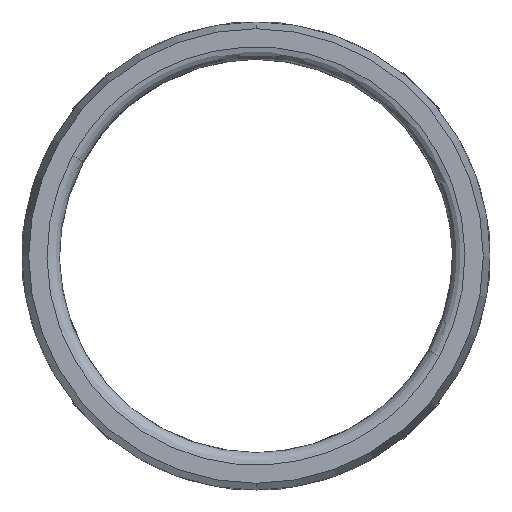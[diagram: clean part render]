
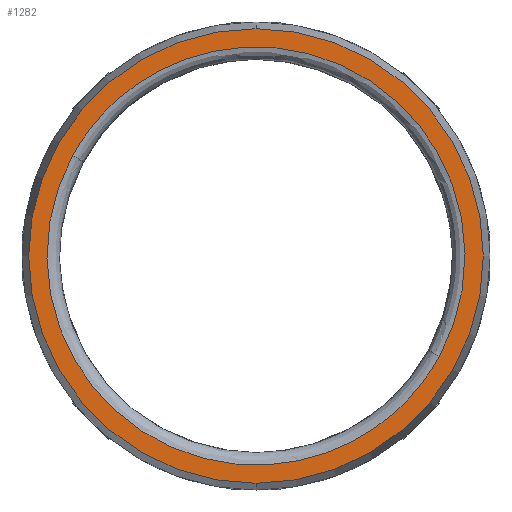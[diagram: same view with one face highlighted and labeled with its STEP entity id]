
A CAD part, front view. The second image highlights one B-rep face of the part: STEP entity #1282.
In plain terms, the highlighted planar face has unit normal (0, -1, 0).
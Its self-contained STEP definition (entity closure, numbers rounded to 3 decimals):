
#98 = DIRECTION ( 'NONE',  ( 0., 1., 0. ) ) ;
#99 = CARTESIAN_POINT ( 'NONE',  ( 0., 0., 0. ) ) ;
#100 = DIRECTION ( 'NONE',  ( 0., 0., 1. ) ) ;
#177 = AXIS2_PLACEMENT_3D ( 'NONE', #2707, #2737, #2620 ) ;
#1282 = ADVANCED_FACE ( 'NONE', ( #2598, #2609 ), #2632, .F. ) ;
#1340 = CARTESIAN_POINT ( 'NONE',  ( 2.722, 0., 74.859 ) ) ;
#1384 = CARTESIAN_POINT ( 'NONE',  ( 29.399, 0., -16.061 ) ) ;
#1409 = CARTESIAN_POINT ( 'NONE',  ( -29.399, 0., 16.061 ) ) ;
#1411 = CARTESIAN_POINT ( 'NONE',  ( 61.521, 0., 42.737 ) ) ;
#1927 = ORIENTED_EDGE ( 'NONE', *, *, #2869, .F. ) ;
#1953 = ORIENTED_EDGE ( 'NONE', *, *, #2854, .F. ) ;
#1956 = VERTEX_POINT ( 'NONE', #2625 ) ;
#1959 = VERTEX_POINT ( 'NONE', #2803 ) ;
#1967 = VERTEX_POINT ( 'NONE', #2790 ) ;
#2079 = VERTEX_POINT ( 'NONE', #3385 ) ;
#2215 = ORIENTED_EDGE ( 'NONE', *, *, #2876, .F. ) ;
#2324 = ORIENTED_EDGE ( 'NONE', *, *, #2922, .F. ) ;
#2391 = CIRCLE ( 'NONE', #2411, 36.428 ) ;
#2411 = AXIS2_PLACEMENT_3D ( 'NONE', #3209, #3207, #3212 ) ;
#2440 = EDGE_LOOP ( 'NONE', ( #2324, #2215 ) ) ;
#2500 = EDGE_LOOP ( 'NONE', ( #1927, #1953 ) ) ;
#2598 = FACE_BOUND ( 'NONE', #2500, .T. ) ;
#2609 = FACE_OUTER_BOUND ( 'NONE', #2440, .T. ) ;
#2620 = DIRECTION ( 'NONE',  ( 0., 0., 1. ) ) ;
#2625 = CARTESIAN_POINT ( 'NONE',  ( 0., 0., 36.428 ) ) ;
#2632 = PLANE ( 'NONE',  #177 ) ;
#2707 = CARTESIAN_POINT ( 'NONE',  ( 33.5, 0., 0. ) ) ;
#2737 = DIRECTION ( 'NONE',  ( 0., 1., 0. ) ) ;
#2790 = CARTESIAN_POINT ( 'NONE',  ( -29.399, 0., 16.061 ) ) ;
#2803 = CARTESIAN_POINT ( 'NONE',  ( 0., 0., -36.428 ) ) ;
#2854 = EDGE_CURVE ( 'NONE', #2079, #1967, #3316, .T. ) ;
#2869 = EDGE_CURVE ( 'NONE', #1967, #2079, #3319, .T. ) ;
#2876 = EDGE_CURVE ( 'NONE', #1959, #1956, #4297, .T. ) ;
#2922 = EDGE_CURVE ( 'NONE', #1956, #1959, #2391, .T. ) ;
#3069 = CARTESIAN_POINT ( 'NONE',  ( -61.521, 0., -42.737 ) ) ;
#3070 = CARTESIAN_POINT ( 'NONE',  ( -29.399, 0., 16.061 ) ) ;
#3073 = CARTESIAN_POINT ( 'NONE',  ( -2.722, 0., -74.859 ) ) ;
#3076 = CARTESIAN_POINT ( 'NONE',  ( 29.399, 0., -16.061 ) ) ;
#3207 = DIRECTION ( 'NONE',  ( 0., 1., 0. ) ) ;
#3209 = CARTESIAN_POINT ( 'NONE',  ( 0., 0., 0. ) ) ;
#3212 = DIRECTION ( 'NONE',  ( 0., 0., 1. ) ) ;
#3316 =( BOUNDED_CURVE ( )  B_SPLINE_CURVE ( 3, ( #1384, #1411, #1340, #1409 ),
 .UNSPECIFIED., .F., .F. ) 
 B_SPLINE_CURVE_WITH_KNOTS ( ( 4, 4 ),
 ( 0., 1. ),
 .UNSPECIFIED. ) 
 CURVE ( )  GEOMETRIC_REPRESENTATION_ITEM ( )  RATIONAL_B_SPLINE_CURVE ( ( 1., 0.333, 0.333, 1. ) ) 
 REPRESENTATION_ITEM ( '' )  );
#3319 =( BOUNDED_CURVE ( )  B_SPLINE_CURVE ( 3, ( #3070, #3069, #3073, #3076 ),
 .UNSPECIFIED., .F., .F. ) 
 B_SPLINE_CURVE_WITH_KNOTS ( ( 4, 4 ),
 ( 0., 1. ),
 .UNSPECIFIED. ) 
 CURVE ( )  GEOMETRIC_REPRESENTATION_ITEM ( )  RATIONAL_B_SPLINE_CURVE ( ( 1., 0.333, 0.333, 1. ) ) 
 REPRESENTATION_ITEM ( '' )  );
#3385 = CARTESIAN_POINT ( 'NONE',  ( 29.399, 0., -16.061 ) ) ;
#4285 = AXIS2_PLACEMENT_3D ( 'NONE', #99, #98, #100 ) ;
#4297 = CIRCLE ( 'NONE', #4285, 36.428 ) ;
